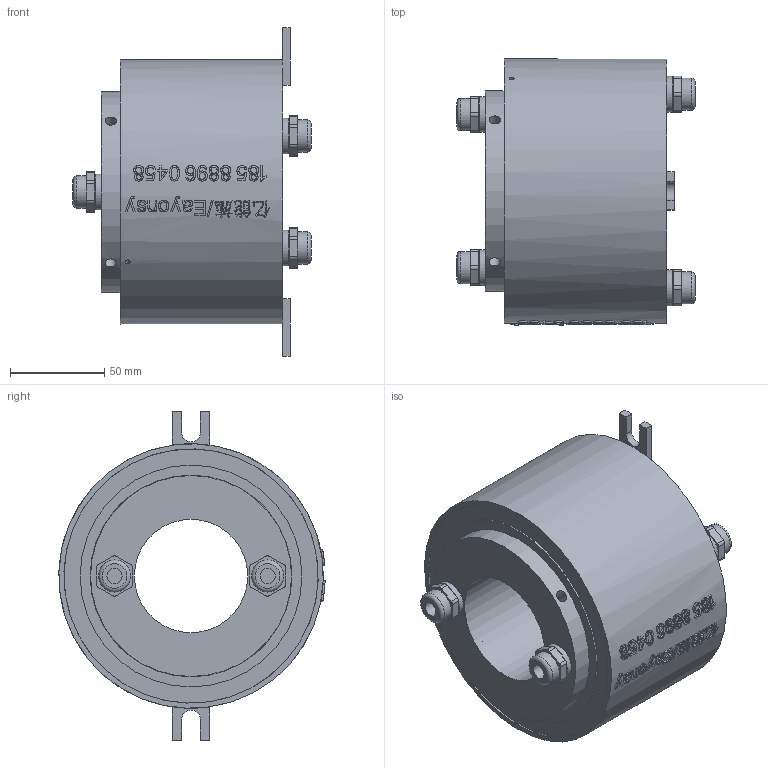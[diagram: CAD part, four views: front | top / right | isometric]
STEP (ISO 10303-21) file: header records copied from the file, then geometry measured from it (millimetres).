
FILE_DESCRIPTION(/* description */ (''),/* implementation_level */ '2;1');
FILE_NAME(/* name */ 'HDF60140-0610.stp',/* time_stamp */ '2025-01-19T13:59:18+08:00',/* author */ (''),/* organization */ (''),/* preprocessor_version */ 'ST-DEVELOPER v16.7',/* originating_system */ 'SIEMENS PLM Software NX 12.0',/* authorisation */ '');
FILE_SCHEMA (('AUTOMOTIVE_DESIGN { 1 0 10303 214 3 1 1 1 }'));
Products named in the file (1): HX05089CE4B9bd1z
Bounding box: 126 x 140.93 x 174 mm (x, y, z)
Volume: 1150700.9 mm3; surface area: 108884.2 mm2
Topology: 1 solids, 7 shells, 569 faces, 1409 edges, 947 vertices
Faces by surface type: plane 316, cylinder 107, extrusion 96, bspline 29, cone 13, torus 8
Full cylindrical faces by diameter (mm): 2.5 x2, 3 x4, 3.3 x4, 3.4 x4, 6 x8, 8 x10, 10.2 x4, 17 x8, 19 x4, 60 x1, 81.4 x2, 81.8 x2, 83 x2, 85 x1, 106.4 x1, 106.8 x1, 117.4 x1, 134.2 x1, 134.6 x2, 140 x1
Entity records: 37706 total; most frequent: CARTESIAN_POINT 25789, ORIENTED_EDGE 2518, DIRECTION 1955, EDGE_CURVE 1259, VERTEX_POINT 898, EDGE_LOOP 773, AXIS2_PLACEMENT_3D 763, B_SPLINE_CURVE_WITH_KNOTS 704
